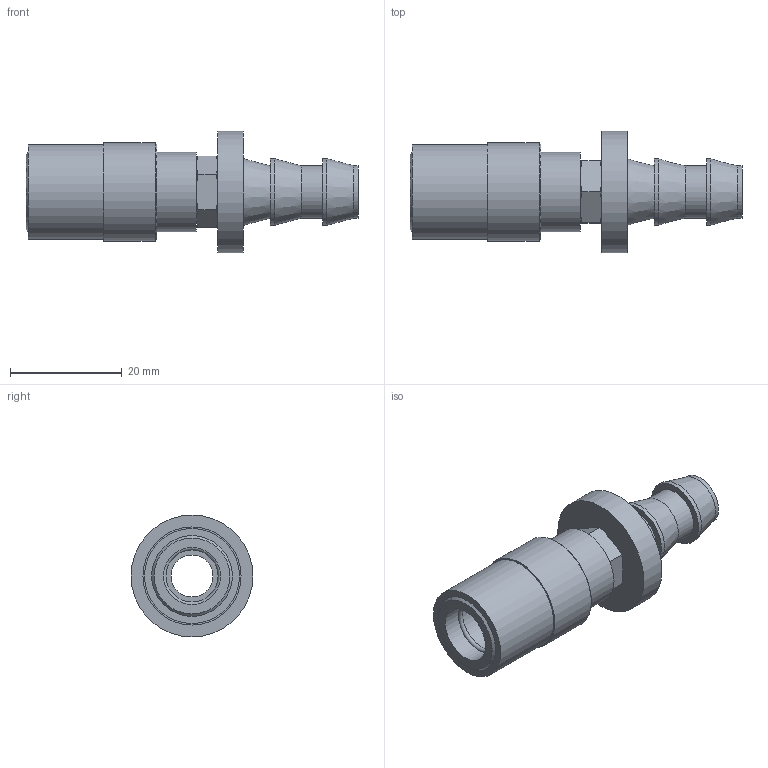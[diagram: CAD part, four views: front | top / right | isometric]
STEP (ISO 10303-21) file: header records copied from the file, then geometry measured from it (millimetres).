
FILE_DESCRIPTION(/* description */ ('STEP AP214'),/* implementation_level */ '2;1');
FILE_NAME(/* name */ 'JSL0206-SV',/* time_stamp */ '2024-12-19T09:16:48+01:00',/* author */ ('License CC BY-ND 4.0'),/* organization */ ('CADENAS'),/* preprocessor_version */ 'ST-DEVELOPER v19.3',/* originating_system */ 'PARTsolutions',/* authorisation */ ' ');
FILE_SCHEMA (('AUTOMOTIVE_DESIGN {1 0 10303 214 3 1 1}'));
Length unit declared in the file: inch
Products named in the file (1): JSL0206-SV
Bounding box: 59.51 x 21.84 x 21.84 mm (x, y, z)
Volume: 7441.2 mm3; surface area: 5243 mm2
Topology: 1 solids, 1 shells, 49 faces, 95 edges, 57 vertices
Faces by surface type: plane 19, cone 17, cylinder 12, torus 1
Full cylindrical faces by diameter (mm): 7.518 x1, 9.398 x2, 10.211 x2, 11.938 x2, 14.287 x1, 17.018 x1, 17.589 x1, 21.844 x1
Entity records: 1217 total; most frequent: CARTESIAN_POINT 269, DIRECTION 191, ORIENTED_EDGE 156, AXIS2_PLACEMENT_3D 91, EDGE_CURVE 78, EDGE_LOOP 77, FACE_BOUND 77, VERTEX_POINT 57
